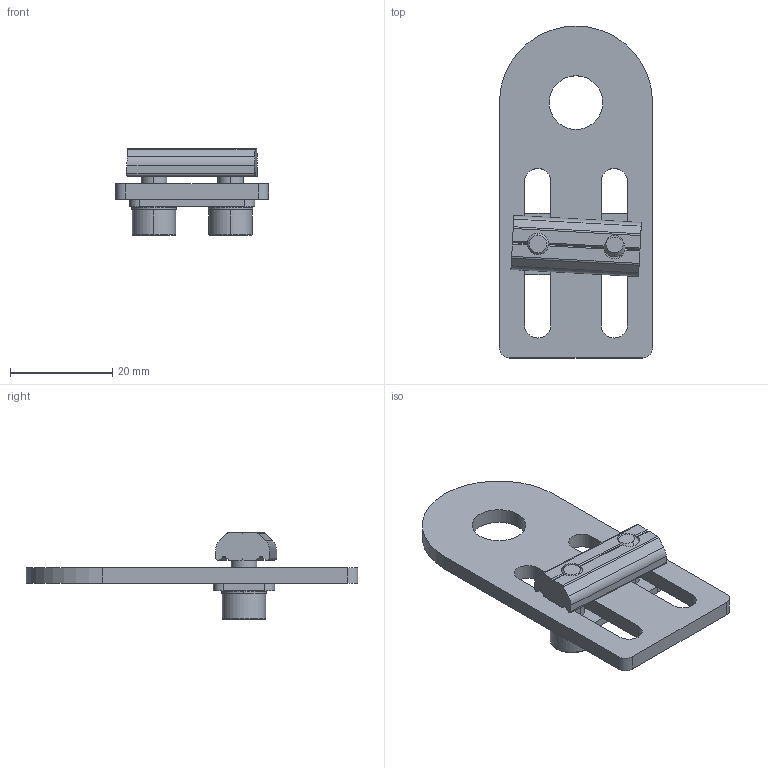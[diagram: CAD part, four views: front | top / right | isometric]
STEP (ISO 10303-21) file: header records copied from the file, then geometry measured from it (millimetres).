
FILE_DESCRIPTION (( 'STEP AP214' ), '1' );
FILE_NAME ('SMBE6-1028.STEP', '2019-11-06T01:51:45', ( '微软用户' ), ( '微软中国' ), 'SwSTEP 2.0', 'SolidWorks 2016', '' );
FILE_SCHEMA (( 'AUTOMOTIVE_DESIGN' ));
Length unit declared in the file: millimetre
Products named in the file (1): SMBE6-1028
Bounding box: 30 x 65 x 17 mm (x, y, z)
Volume: 6723.7 mm3; surface area: 6681.2 mm2
Topology: 7 solids, 7 shells, 510 faces, 1476 edges, 976 vertices
Faces by surface type: plane 447, cylinder 55, cone 4, bspline 4
Entity records: 22940 total; most frequent: CARTESIAN_POINT 3425, ORIENTED_EDGE 2952, DIRECTION 2924, EDGE_CURVE 1476, AXIS2_PLACEMENT_3D 981, VERTEX_POINT 976, VECTOR 962, LINE 962
